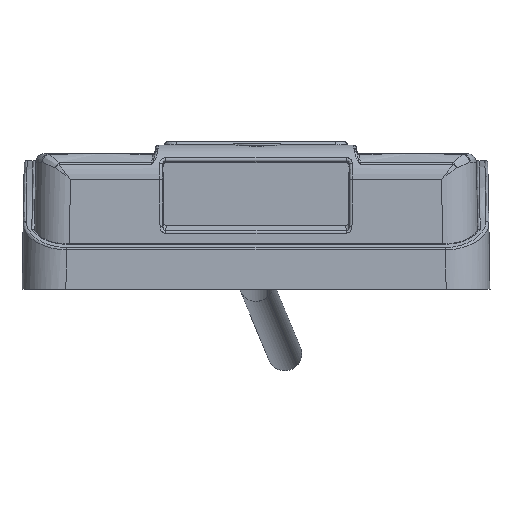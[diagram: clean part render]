
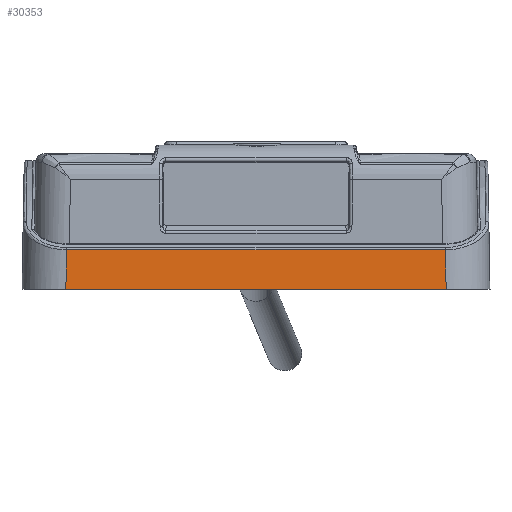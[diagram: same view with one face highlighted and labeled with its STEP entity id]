
A CAD part, left-side view. The second image highlights one B-rep face of the part: STEP entity #30353.
In plain terms, the highlighted planar face has unit normal (-1, 0, 0.018).
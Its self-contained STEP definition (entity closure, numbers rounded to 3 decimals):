
#30329=AXIS2_PLACEMENT_3D('Plane Axis2P3D',#30326,#30327,#30328) ;
#29747=CARTESIAN_POINT('Vertex',(-48.,-32.501,-12.)) ;
#29751=CARTESIAN_POINT('Control Point',(-48.,-32.501,-12.)) ;
#29752=CARTESIAN_POINT('Control Point',(-48.,32.501,-12.)) ;
#29753=CARTESIAN_POINT('Vertex',(-48.,32.501,-12.)) ;
#30326=CARTESIAN_POINT('Axis2P3D Location',(-48.,-40.,-12.)) ;
#30332=CARTESIAN_POINT('Control Point',(-48.,-32.501,-12.)) ;
#30333=CARTESIAN_POINT('Control Point',(-47.882,-32.383,-5.256)) ;
#30334=CARTESIAN_POINT('Vertex',(-47.882,-32.383,-5.256)) ;
#30338=CARTESIAN_POINT('Control Point',(-47.882,-32.383,-5.256)) ;
#30339=CARTESIAN_POINT('Control Point',(-47.882,32.383,-5.256)) ;
#30340=CARTESIAN_POINT('Vertex',(-47.882,32.383,-5.256)) ;
#30344=CARTESIAN_POINT('Control Point',(-47.882,32.383,-5.256)) ;
#30345=CARTESIAN_POINT('Control Point',(-48.,32.501,-12.)) ;
#30327=DIRECTION('Axis2P3D Direction',(1.,0.,-0.017)) ;
#30328=DIRECTION('Axis2P3D XDirection',(-0.017,0.,-1.)) ;
#30348=ORIENTED_EDGE('',*,*,#30336,.T.) ;
#30349=ORIENTED_EDGE('',*,*,#30342,.T.) ;
#30350=ORIENTED_EDGE('',*,*,#30346,.T.) ;
#30351=ORIENTED_EDGE('',*,*,#29755,.F.) ;
#30353=ADVANCED_FACE('980 726-00_011;1-BASE.1\\Extrude (2)',(#30352),#30330,.F.) ;
#29755=EDGE_CURVE('',#29748,#29754,#29750,.T.) ;
#30336=EDGE_CURVE('',#29748,#30335,#30331,.T.) ;
#30342=EDGE_CURVE('',#30335,#30341,#30337,.T.) ;
#30346=EDGE_CURVE('',#30341,#29754,#30343,.T.) ;
#30347=EDGE_LOOP('',(#30348,#30349,#30350,#30351)) ;
#30352=FACE_OUTER_BOUND('',#30347,.T.) ;
#30330=PLANE('',#30329) ;
#29748=VERTEX_POINT('',#29747) ;
#29754=VERTEX_POINT('',#29753) ;
#30335=VERTEX_POINT('',#30334) ;
#30341=VERTEX_POINT('',#30340) ;
#29750=(BOUNDED_CURVE()B_SPLINE_CURVE(1,(#29751,#29752),.UNSPECIFIED.,.F.,.U.)B_SPLINE_CURVE_WITH_KNOTS((2,2),(0.,65.002),.UNSPECIFIED.)CURVE()GEOMETRIC_REPRESENTATION_ITEM()RATIONAL_B_SPLINE_CURVE((1.,1.))REPRESENTATION_ITEM('')) ;
#30331=(BOUNDED_CURVE()B_SPLINE_CURVE(1,(#30332,#30333),.UNSPECIFIED.,.F.,.U.)B_SPLINE_CURVE_WITH_KNOTS((2,2),(0.,6.746),.UNSPECIFIED.)CURVE()GEOMETRIC_REPRESENTATION_ITEM()RATIONAL_B_SPLINE_CURVE((1.,1.))REPRESENTATION_ITEM('')) ;
#30337=(BOUNDED_CURVE()B_SPLINE_CURVE(1,(#30338,#30339),.UNSPECIFIED.,.F.,.U.)B_SPLINE_CURVE_WITH_KNOTS((2,2),(0.,64.767),.UNSPECIFIED.)CURVE()GEOMETRIC_REPRESENTATION_ITEM()RATIONAL_B_SPLINE_CURVE((1.,1.))REPRESENTATION_ITEM('')) ;
#30343=(BOUNDED_CURVE()B_SPLINE_CURVE(1,(#30344,#30345),.UNSPECIFIED.,.F.,.U.)B_SPLINE_CURVE_WITH_KNOTS((2,2),(0.,6.746),.UNSPECIFIED.)CURVE()GEOMETRIC_REPRESENTATION_ITEM()RATIONAL_B_SPLINE_CURVE((1.,1.))REPRESENTATION_ITEM('')) ;
